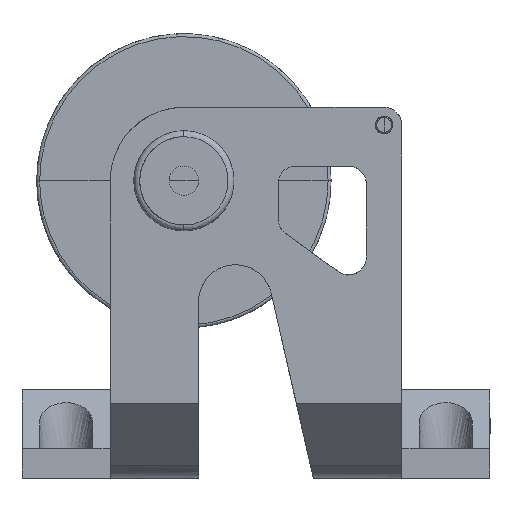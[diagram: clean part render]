
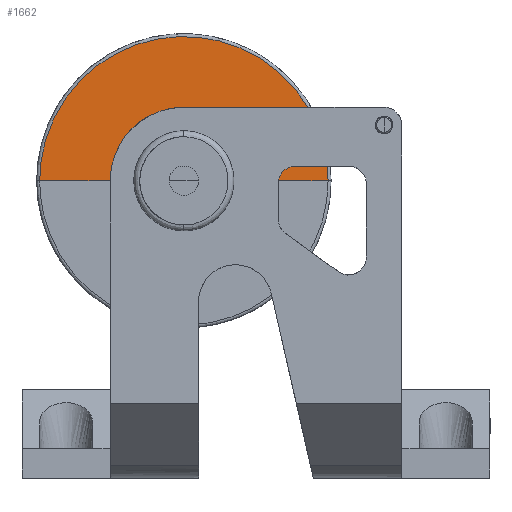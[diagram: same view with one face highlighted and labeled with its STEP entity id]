
A CAD part, left-side view. The second image highlights one B-rep face of the part: STEP entity #1662.
In plain terms, the highlighted free-form (B-spline) face has degree [1, 2] with [2, 5] control points.
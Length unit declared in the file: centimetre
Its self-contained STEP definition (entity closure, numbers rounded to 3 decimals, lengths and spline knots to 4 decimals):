
#1662=ADVANCED_FACE($,(#3479),#21298,.T.);
#3479=FACE_OUTER_BOUND($,#5236,.T.);
#5236=EDGE_LOOP($,(#9029,#9030,#9031,#9032));
#9029=ORIENTED_EDGE($,*,*,#14821,.F.);
#9030=ORIENTED_EDGE($,*,*,#14822,.T.);
#9031=ORIENTED_EDGE($,*,*,#14853,.F.);
#9032=ORIENTED_EDGE($,*,*,#14851,.F.);
#14821=EDGE_CURVE($,#18863,#18878,#23387,.T.);
#14822=EDGE_CURVE($,#18863,#18870,#79949,.T.);
#14851=EDGE_CURVE($,#18878,#18879,#79963,.T.);
#14853=EDGE_CURVE($,#18879,#18870,#79964,.T.);
#18863=VERTEX_POINT($,#46250);
#18870=VERTEX_POINT($,#46257);
#18878=VERTEX_POINT($,#46265);
#18879=VERTEX_POINT($,#46266);
#21298=(
BOUNDED_SURFACE()
B_SPLINE_SURFACE(1,2,((#45813,#45814,#45815,#45816,#45817),(#45818,#45819,
#45820,#45821,#45822)),.UNSPECIFIED.,.F.,.F.,.F.)
B_SPLINE_SURFACE_WITH_KNOTS((2,2),(3,2,3),(0.,32.5),(0.,1.5708,
3.1416),.UNSPECIFIED.)
GEOMETRIC_REPRESENTATION_ITEM()
RATIONAL_B_SPLINE_SURFACE(((1.,0.707,1.,0.707,1.),
(1.,0.707,1.,0.707,1.)))
REPRESENTATION_ITEM($)
SURFACE()
);
#23387=(
BOUNDED_CURVE()
B_SPLINE_CURVE(2,(#45534,#45535,#45536,#45537,#45538),.UNSPECIFIED.,.F.,
.F.)
B_SPLINE_CURVE_WITH_KNOTS((3,2,3),(0.,1.5708,3.1416),
.UNSPECIFIED.)
CURVE()
GEOMETRIC_REPRESENTATION_ITEM()
RATIONAL_B_SPLINE_CURVE((1.,0.707,1.,0.707,1.))
REPRESENTATION_ITEM($)
);
#45534=CARTESIAN_POINT($,(-127.8728,-65.0382,101.));
#45535=CARTESIAN_POINT($,(-127.8728,-65.0382,150.));
#45536=CARTESIAN_POINT($,(-127.8728,-114.0382,150.));
#45537=CARTESIAN_POINT($,(-127.8728,-163.0382,150.));
#45538=CARTESIAN_POINT($,(-127.8728,-163.0382,101.));
#45539=CARTESIAN_POINT($,(-127.8728,-65.0382,101.));
#45540=CARTESIAN_POINT($,(-127.8728,-97.5382,101.));
#45672=CARTESIAN_POINT($,(-127.8728,-163.0382,101.));
#45673=CARTESIAN_POINT($,(-127.8728,-130.5382,101.));
#45679=CARTESIAN_POINT($,(-127.8728,-130.5387,101.));
#45680=CARTESIAN_POINT($,(-127.8728,-130.5387,103.1596));
#45681=CARTESIAN_POINT($,(-127.8728,-129.6796,107.4788));
#45682=CARTESIAN_POINT($,(-127.8728,-126.0095,112.9716));
#45683=CARTESIAN_POINT($,(-127.8728,-120.5171,116.6413));
#45684=CARTESIAN_POINT($,(-127.8728,-114.0381,117.9302));
#45685=CARTESIAN_POINT($,(-127.8728,-107.5594,116.6413));
#45686=CARTESIAN_POINT($,(-127.8728,-102.0665,112.9715));
#45687=CARTESIAN_POINT($,(-127.8728,-98.3972,107.4788));
#45688=CARTESIAN_POINT($,(-127.8728,-97.5369,103.1597));
#45689=CARTESIAN_POINT($,(-127.8728,-97.5382,101.));
#45813=CARTESIAN_POINT($,(-127.8728,-65.0382,101.));
#45814=CARTESIAN_POINT($,(-127.8728,-65.0382,150.));
#45815=CARTESIAN_POINT($,(-127.8728,-114.0382,150.));
#45816=CARTESIAN_POINT($,(-127.8728,-163.0382,150.));
#45817=CARTESIAN_POINT($,(-127.8728,-163.0382,101.));
#45818=CARTESIAN_POINT($,(-127.8728,-97.5382,101.));
#45819=CARTESIAN_POINT($,(-127.8728,-97.5382,117.5));
#45820=CARTESIAN_POINT($,(-127.8728,-114.0382,117.5));
#45821=CARTESIAN_POINT($,(-127.8728,-130.5382,117.5));
#45822=CARTESIAN_POINT($,(-127.8728,-130.5382,101.));
#46250=CARTESIAN_POINT($,(-127.8728,-65.0382,101.));
#46257=CARTESIAN_POINT($,(-127.8728,-97.5382,101.));
#46265=CARTESIAN_POINT($,(-127.8728,-163.0382,101.));
#46266=CARTESIAN_POINT($,(-127.8728,-130.5382,101.));
#79949=B_SPLINE_CURVE_WITH_KNOTS($,1,(#45539,#45540),.UNSPECIFIED.,.F.,.F.,
(2,2),(0.,32.5),.UNSPECIFIED.);
#79963=B_SPLINE_CURVE_WITH_KNOTS($,1,(#45672,#45673),.UNSPECIFIED.,.F.,.F.,
(2,2),(0.,32.5),.UNSPECIFIED.);
#79964=B_SPLINE_CURVE_WITH_KNOTS($,3,(#45679,#45680,#45681,#45682,#45683,
#45684,#45685,#45686,#45687,#45688,#45689),.UNSPECIFIED.,.F.,.F.,(4,1,1,
1,1,1,1,1,4),(51.8362,58.3157,64.7952,71.2748,
77.7543,84.2338,90.7133,97.1929,103.6724),
.UNSPECIFIED.);
